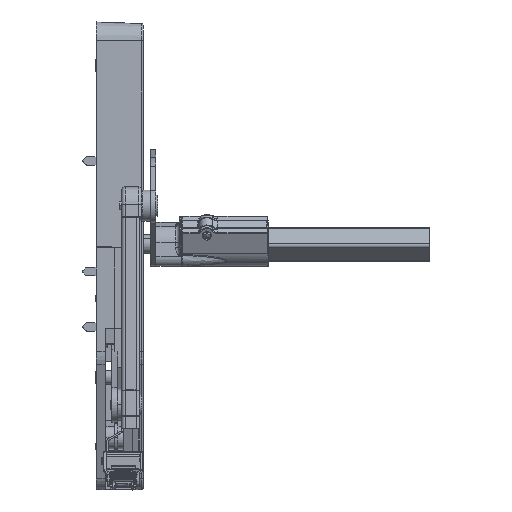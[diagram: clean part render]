
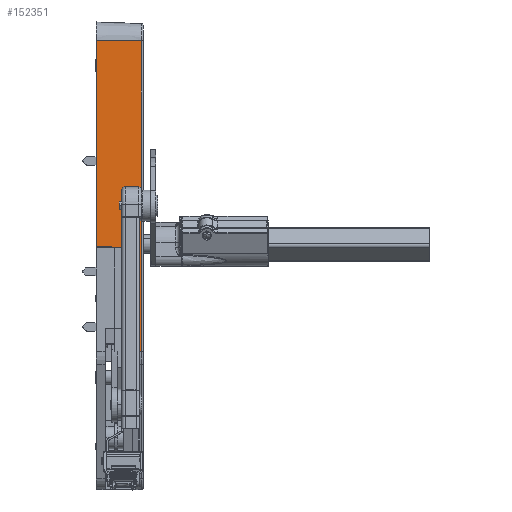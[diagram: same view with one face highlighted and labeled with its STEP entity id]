
A CAD part, front view. The second image highlights one B-rep face of the part: STEP entity #152351.
In plain terms, the highlighted planar face has unit normal (0.035, -0.999, 0).
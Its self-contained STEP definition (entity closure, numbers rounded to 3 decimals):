
#141088=DIRECTION('',(0.,0.,-1.));
#141089=VECTOR('',#141088,119.067);
#141090=CARTESIAN_POINT('',(0.,-121.969,
259.3));
#141091=LINE('',#141090,#141089);
#141260=DIRECTION('',(0.,0.,-1.));
#141261=VECTOR('',#141260,59.575);
#141262=CARTESIAN_POINT('',(21.,-121.236,139.5));
#141263=LINE('',#141262,#141261);
#143184=DIRECTION('',(0.999,0.035,0.));
#143185=VECTOR('',#143184,5.038);
#143186=CARTESIAN_POINT('',(21.,-121.236,79.925));
#143187=LINE('',#143186,#143185);
#143222=DIRECTION('',(0.,0.,1.));
#143223=VECTOR('',#143222,179.375);
#143224=CARTESIAN_POINT('',(26.035,-121.06,
79.925));
#143225=LINE('',#143224,#143223);
#143229=DIRECTION('',(-0.999,-0.035,0.035));
#143230=VECTOR('',#143229,21.026);
#143231=CARTESIAN_POINT('',(21.,-121.236,139.5));
#143232=LINE('',#143231,#143230);
#143273=DIRECTION('',(-0.999,-0.035,
0.));
#143274=VECTOR('',#143273,26.051);
#143275=CARTESIAN_POINT('',(26.035,-121.06,259.3));
#143276=LINE('',#143275,#143274);
#149483=CARTESIAN_POINT('',(0.,-121.969,
259.3));
#149484=VERTEX_POINT('',#149483);
#149485=CARTESIAN_POINT('',(0.,-121.969,
140.233));
#149486=VERTEX_POINT('',#149485);
#149547=CARTESIAN_POINT('',(21.,-121.236,139.5));
#149548=VERTEX_POINT('',#149547);
#149549=CARTESIAN_POINT('',(21.,-121.236,79.925));
#149550=VERTEX_POINT('',#149549);
#150854=CARTESIAN_POINT('',(26.035,-121.06,
79.925));
#150855=VERTEX_POINT('',#150854);
#150856=CARTESIAN_POINT('',(26.035,-121.06,259.3));
#150857=VERTEX_POINT('',#150856);
#152336=CARTESIAN_POINT('',(27.,-121.026,79.925));
#152337=DIRECTION('',(-0.035,0.999,0.));
#152338=DIRECTION('',(0.,0.,1.));
#152339=AXIS2_PLACEMENT_3D('',#152336,#152337,#152338);
#152340=PLANE('',#152339);
#152341=ORIENTED_EDGE('',*,*,#152322,.F.);
#152342=ORIENTED_EDGE('',*,*,#152283,.F.);
#152343=ORIENTED_EDGE('',*,*,#150980,.F.);
#152345=ORIENTED_EDGE('',*,*,#152344,.T.);
#152346=ORIENTED_EDGE('',*,*,#150883,.F.);
#152348=ORIENTED_EDGE('',*,*,#152347,.F.);
#152349=EDGE_LOOP('',(#152341,#152342,#152343,#152345,#152346,#152348));
#152350=FACE_OUTER_BOUND('',#152349,.F.);
#150883=EDGE_CURVE('',#149484,#149486,#141091,.T.);
#150980=EDGE_CURVE('',#149548,#149550,#141263,.T.);
#152283=EDGE_CURVE('',#149550,#150855,#143187,.T.);
#152322=EDGE_CURVE('',#150855,#150857,#143225,.T.);
#152344=EDGE_CURVE('',#149548,#149486,#143232,.T.);
#152347=EDGE_CURVE('',#150857,#149484,#143276,.T.);
#152351=ADVANCED_FACE('',(#152350),#152340,.F.);
